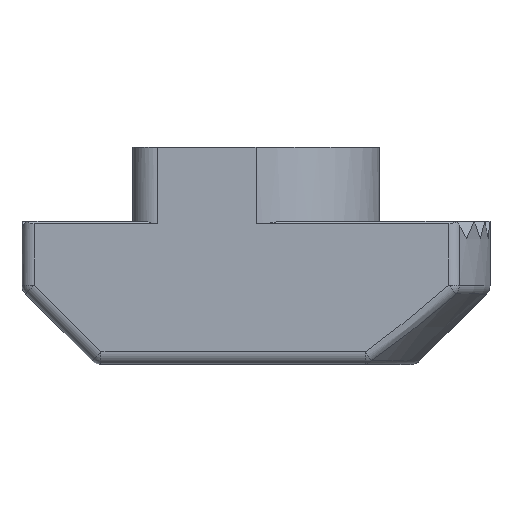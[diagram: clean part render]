
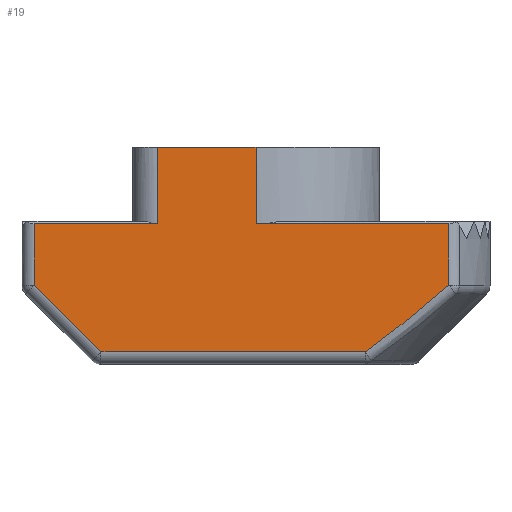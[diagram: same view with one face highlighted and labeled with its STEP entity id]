
A CAD part, top view. The second image highlights one B-rep face of the part: STEP entity #19.
In plain terms, the highlighted planar face has unit normal (0, 0, 1).
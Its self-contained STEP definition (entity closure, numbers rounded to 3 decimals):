
#4 = CARTESIAN_POINT ( 'NONE',  ( 6.725, 2.266, 5. ) ) ;
#13 = PLANE ( 'NONE',  #58 ) ;
#19 = ADVANCED_FACE ( 'NONE', ( #224 ), #13, .F. ) ;
#58 = AXIS2_PLACEMENT_3D ( 'NONE', #916, #187, #209 ) ;
#87 = DIRECTION ( 'NONE',  ( -1., 0., 0. ) ) ;
#115 = EDGE_CURVE ( 'NONE', #1593, #165, #2276, .T. ) ;
#134 = ORIENTED_EDGE ( 'NONE', *, *, #446, .T. ) ;
#165 = VERTEX_POINT ( 'NONE', #1389 ) ;
#167 = CARTESIAN_POINT ( 'NONE',  ( 0., 8.8, 5. ) ) ;
#187 = DIRECTION ( 'NONE',  ( 0., 0., -1. ) ) ;
#209 = DIRECTION ( 'NONE',  ( -1., 0., 0. ) ) ;
#224 = FACE_OUTER_BOUND ( 'NONE', #1740, .T. ) ;
#227 = DIRECTION ( 'NONE',  ( 0., -1., 0. ) ) ;
#271 = CARTESIAN_POINT ( 'NONE',  ( -4., 8.8, 5. ) ) ;
#355 = DIRECTION ( 'NONE',  ( -1., 0., 0. ) ) ;
#382 = VERTEX_POINT ( 'NONE', #563 ) ;
#398 = VECTOR ( 'NONE', #355, 1000. ) ;
#400 = CARTESIAN_POINT ( 'NONE',  ( -4., 8.8, 5. ) ) ;
#437 = LINE ( 'NONE', #1179, #1270 ) ;
#446 = EDGE_CURVE ( 'NONE', #1933, #977, #2410, .T. ) ;
#456 = ORIENTED_EDGE ( 'NONE', *, *, #2229, .T. ) ;
#472 = CARTESIAN_POINT ( 'NONE',  ( 7.824, 3.207, 5. ) ) ;
#490 = VECTOR ( 'NONE', #87, 1000. ) ;
#494 = VECTOR ( 'NONE', #227, 1000. ) ;
#526 = VERTEX_POINT ( 'NONE', #982 ) ;
#563 = CARTESIAN_POINT ( 'NONE',  ( 0., 5.7, 5. ) ) ;
#668 = ORIENTED_EDGE ( 'NONE', *, *, #1268, .T. ) ;
#678 = CARTESIAN_POINT ( 'NONE',  ( -9.5, 5.7, 5. ) ) ;
#706 = ORIENTED_EDGE ( 'NONE', *, *, #1373, .T. ) ;
#712 = B_SPLINE_CURVE_WITH_KNOTS ( 'NONE', 3,
 ( #1292, #2041, #2393, #4, #1487, #2240 ),
 .UNSPECIFIED., .F., .F.,
 ( 4, 2, 4 ),
 ( 0., 0.002, 0.004 ),
 .UNSPECIFIED. ) ;
#723 = CARTESIAN_POINT ( 'NONE',  ( -6.293, 0.5, 5. ) ) ;
#753 = VECTOR ( 'NONE', #1136, 1000. ) ;
#779 = CARTESIAN_POINT ( 'NONE',  ( -4., 8.8, 5. ) ) ;
#798 = CARTESIAN_POINT ( 'NONE',  ( 0., 8.8, 5. ) ) ;
#846 = CARTESIAN_POINT ( 'NONE',  ( -9., 5.8, 5. ) ) ;
#916 = CARTESIAN_POINT ( 'NONE',  ( -9.5, 5.8, 5. ) ) ;
#977 = VERTEX_POINT ( 'NONE', #1527 ) ;
#982 = CARTESIAN_POINT ( 'NONE',  ( 4.436, 0.5, 5. ) ) ;
#985 = EDGE_CURVE ( 'NONE', #1245, #382, #1324, .T. ) ;
#1110 = VECTOR ( 'NONE', #1931, 1000. ) ;
#1136 = DIRECTION ( 'NONE',  ( 0.707, -0.707, 0. ) ) ;
#1171 = LINE ( 'NONE', #2107, #1110 ) ;
#1179 = CARTESIAN_POINT ( 'NONE',  ( 7.824, 5.7, 5. ) ) ;
#1204 = DIRECTION ( 'NONE',  ( 0., -1., 0. ) ) ;
#1245 = VERTEX_POINT ( 'NONE', #167 ) ;
#1265 = VECTOR ( 'NONE', #1204, 1000. ) ;
#1268 = EDGE_CURVE ( 'NONE', #526, #1813, #712, .T. ) ;
#1270 = VECTOR ( 'NONE', #2267, 1000. ) ;
#1292 = CARTESIAN_POINT ( 'NONE',  ( 4.436, 0.5, 5. ) ) ;
#1324 = LINE ( 'NONE', #798, #2340 ) ;
#1328 = EDGE_CURVE ( 'NONE', #2044, #1593, #2076, .T. ) ;
#1373 = EDGE_CURVE ( 'NONE', #1813, #1837, #437, .T. ) ;
#1386 = ORIENTED_EDGE ( 'NONE', *, *, #1328, .T. ) ;
#1389 = CARTESIAN_POINT ( 'NONE',  ( -9., 5.7, 5. ) ) ;
#1453 = ORIENTED_EDGE ( 'NONE', *, *, #2108, .T. ) ;
#1487 = CARTESIAN_POINT ( 'NONE',  ( 7.277, 2.733, 5. ) ) ;
#1527 = CARTESIAN_POINT ( 'NONE',  ( -6.293, 0.5, 5. ) ) ;
#1593 = VERTEX_POINT ( 'NONE', #2185 ) ;
#1603 = LINE ( 'NONE', #678, #2425 ) ;
#1718 = ORIENTED_EDGE ( 'NONE', *, *, #2141, .T. ) ;
#1740 = EDGE_LOOP ( 'NONE', ( #2295, #134, #1453, #668, #706, #456, #2157, #1718, #1386, #1899 ) ) ;
#1763 = LINE ( 'NONE', #846, #1265 ) ;
#1813 = VERTEX_POINT ( 'NONE', #472 ) ;
#1837 = VERTEX_POINT ( 'NONE', #2007 ) ;
#1852 = CARTESIAN_POINT ( 'NONE',  ( -9., 3.207, 5. ) ) ;
#1899 = ORIENTED_EDGE ( 'NONE', *, *, #115, .T. ) ;
#1929 = DIRECTION ( 'NONE',  ( 0., -1., 0. ) ) ;
#1931 = DIRECTION ( 'NONE',  ( 1., 0., 0. ) ) ;
#1933 = VERTEX_POINT ( 'NONE', #1852 ) ;
#2007 = CARTESIAN_POINT ( 'NONE',  ( 7.824, 5.7, 5. ) ) ;
#2025 = CARTESIAN_POINT ( 'NONE',  ( -9.5, 5.7, 5. ) ) ;
#2041 = CARTESIAN_POINT ( 'NONE',  ( 5.028, 0.916, 5. ) ) ;
#2044 = VERTEX_POINT ( 'NONE', #779 ) ;
#2076 = LINE ( 'NONE', #400, #494 ) ;
#2107 = CARTESIAN_POINT ( 'NONE',  ( -9.5, 0.5, 5. ) ) ;
#2108 = EDGE_CURVE ( 'NONE', #977, #526, #1171, .T. ) ;
#2118 = LINE ( 'NONE', #271, #490 ) ;
#2141 = EDGE_CURVE ( 'NONE', #1245, #2044, #2118, .T. ) ;
#2157 = ORIENTED_EDGE ( 'NONE', *, *, #985, .F. ) ;
#2185 = CARTESIAN_POINT ( 'NONE',  ( -4., 5.7, 5. ) ) ;
#2220 = EDGE_CURVE ( 'NONE', #165, #1933, #1763, .T. ) ;
#2229 = EDGE_CURVE ( 'NONE', #1837, #382, #1603, .T. ) ;
#2240 = CARTESIAN_POINT ( 'NONE',  ( 7.824, 3.207, 5. ) ) ;
#2267 = DIRECTION ( 'NONE',  ( 0., 1., 0. ) ) ;
#2276 = LINE ( 'NONE', #2025, #398 ) ;
#2295 = ORIENTED_EDGE ( 'NONE', *, *, #2220, .T. ) ;
#2340 = VECTOR ( 'NONE', #1929, 1000. ) ;
#2393 = CARTESIAN_POINT ( 'NONE',  ( 5.6, 1.358, 5. ) ) ;
#2394 = DIRECTION ( 'NONE',  ( -1., 0., 0. ) ) ;
#2410 = LINE ( 'NONE', #723, #753 ) ;
#2425 = VECTOR ( 'NONE', #2394, 1000. ) ;
